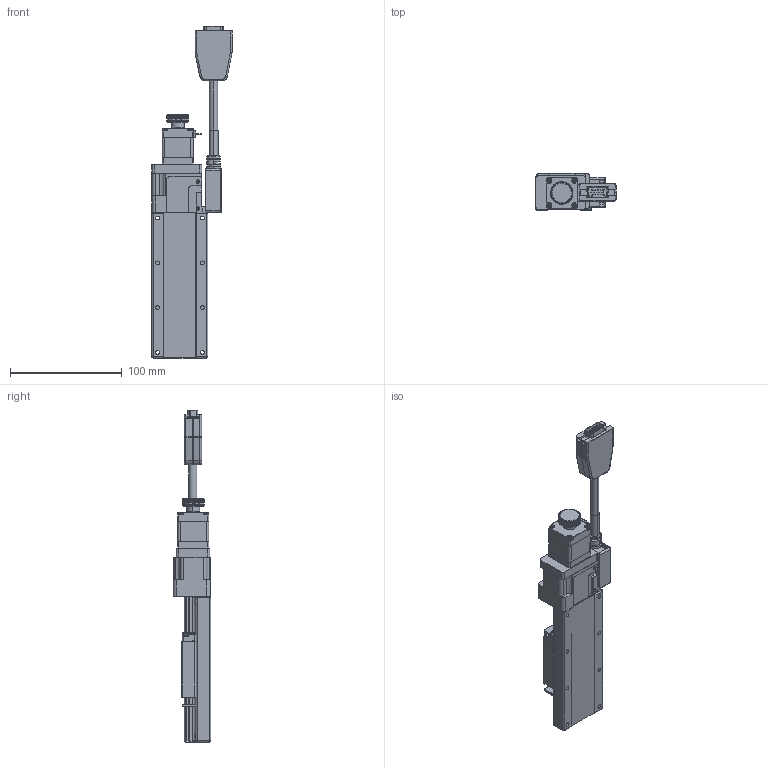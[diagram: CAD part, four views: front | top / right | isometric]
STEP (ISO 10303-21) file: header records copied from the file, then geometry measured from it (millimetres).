
FILE_DESCRIPTION (( 'STEP AP203' ), '1' );
FILE_NAME ('CXN5050-S2?N.STEP', '2022-11-16T10:18:48', ( '' ), ( '' ), 'SwSTEP 2.0', 'SolidWorks 2019', '' );
FILE_SCHEMA (( 'CONFIG_CONTROL_DESIGN' ));
Length unit declared in the file: millimetre
Products named in the file (4): Group1^CXN5050-S2?N(模糊化); CXN5050-S2?N; Group3^CXN5050-S2?N(模糊化); Group2^CXN5050-S2?N(模糊化)
Assembly tree (3 placements, depth 2):
  CXN5050-S2?N
    Group1^CXN5050-S2?N(模糊化)
    Group2^CXN5050-S2?N(模糊化)
    Group3^CXN5050-S2?N(模糊化)
Bounding box: 71.5 x 33.2 x 296.6 mm (x, y, z)
Volume: 208064.9 mm3; surface area: 83794.5 mm2
Topology: 11 solids, 20 shells, 2555 faces, 6995 edges, 4456 vertices
Faces by surface type: plane 1091, cylinder 811, torus 308, cone 152, bspline 141, sphere 52
Entity records: 88274 total; most frequent: CARTESIAN_POINT 25390, ORIENTED_EDGE 13660, DIRECTION 12570, EDGE_CURVE 6830, AXIS2_PLACEMENT_3D 4695, VERTEX_POINT 4389, VECTOR 3180, LINE 3180
